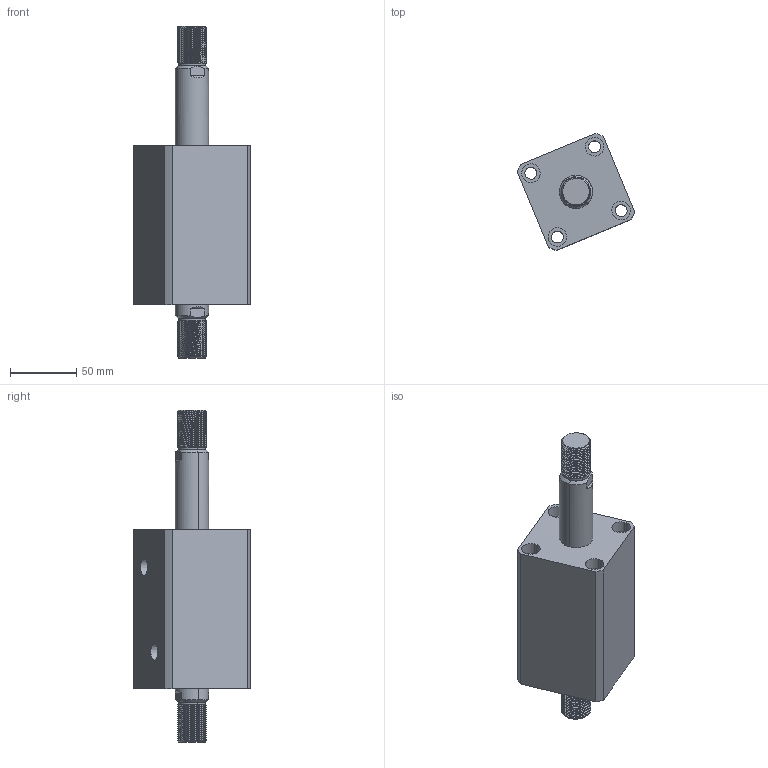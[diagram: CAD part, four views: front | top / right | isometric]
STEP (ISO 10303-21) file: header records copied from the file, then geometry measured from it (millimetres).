
FILE_DESCRIPTION (( 'STEP AP214' ), '1' );
FILE_NAME ('chtb-sw40x50w_asm.STEP', '2018-06-08T10:22:57', ( 'Windows' ), ( 'Microsoft' ), 'SwSTEP 2.0', 'SolidWorks 2015', '' );
FILE_SCHEMA (( 'AUTOMOTIVE_DESIGN' ));
Length unit declared in the file: millimetre
Products named in the file (4): CHTB-SW40X50NBT; CHTB-SD40QG; chtb-sw40x50w_asm; CHTB-SW40X50NHSG
Assembly tree (3 placements, depth 2):
  chtb-sw40x50w_asm
    CHTB-SD40QG
    CHTB-SW40X50NBT
    CHTB-SW40X50NHSG
Bounding box: 88.11 x 88.11 x 250 mm (x, y, z)
Volume: 558651.4 mm3; surface area: 105968.6 mm2
Topology: 3 solids, 3 shells, 254 faces, 680 edges, 452 vertices
Faces by surface type: cylinder 160, plane 46, bspline 18, cone 18, torus 12
Entity records: 17389 total; most frequent: CARTESIAN_POINT 11402, ORIENTED_EDGE 1348, DIRECTION 1094, EDGE_CURVE 674, VERTEX_POINT 452, AXIS2_PLACEMENT_3D 443, EDGE_LOOP 296, FACE_OUTER_BOUND 254
